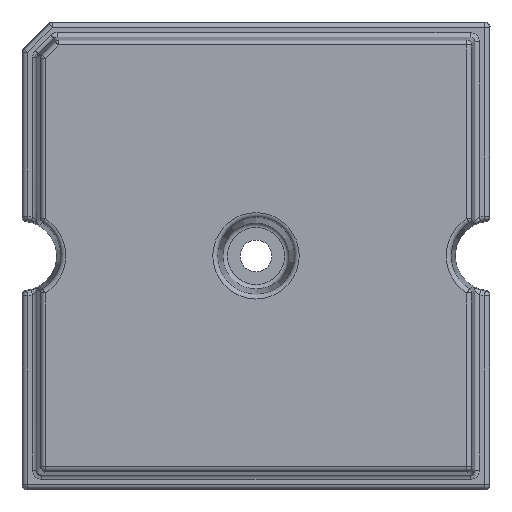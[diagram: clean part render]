
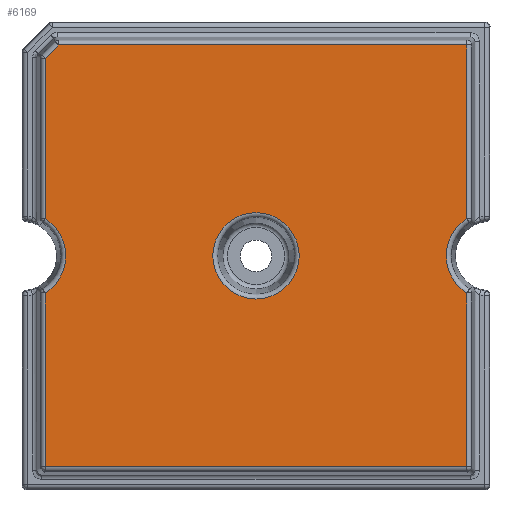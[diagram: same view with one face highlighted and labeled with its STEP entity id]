
A CAD part, top view. The second image highlights one B-rep face of the part: STEP entity #6169.
In plain terms, the highlighted planar face has unit normal (0, 0, 1).
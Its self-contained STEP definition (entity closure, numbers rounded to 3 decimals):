
#277=CIRCLE('',#6587,4.672);
#316=CIRCLE('',#6668,4.672);
#347=CIRCLE('',#6732,4.614);
#490=PLANE('',#6748);
#832=LINE('',#10495,#1218);
#833=LINE('',#10501,#1219);
#834=LINE('',#10507,#1220);
#837=LINE('',#10619,#1223);
#849=LINE('',#10717,#1235);
#877=LINE('',#11078,#1263);
#878=LINE('',#11080,#1264);
#1218=VECTOR('',#7686,1000.);
#1219=VECTOR('',#7695,1000.);
#1220=VECTOR('',#7704,1000.);
#1223=VECTOR('',#7763,1000.);
#1235=VECTOR('',#7809,1000.);
#1263=VECTOR('',#8055,1000.);
#1264=VECTOR('',#8058,1000.);
#2643=ORIENTED_EDGE('',*,*,#3868,.T.);
#2644=ORIENTED_EDGE('',*,*,#3741,.F.);
#2645=ORIENTED_EDGE('',*,*,#3867,.T.);
#2646=ORIENTED_EDGE('',*,*,#3718,.F.);
#2647=ORIENTED_EDGE('',*,*,#3712,.T.);
#2648=ORIENTED_EDGE('',*,*,#3709,.T.);
#2649=ORIENTED_EDGE('',*,*,#3706,.F.);
#2650=ORIENTED_EDGE('',*,*,#3819,.F.);
#2651=ORIENTED_EDGE('',*,*,#3766,.T.);
#2652=ORIENTED_EDGE('',*,*,#3866,.F.);
#3706=EDGE_CURVE('',#4462,#4461,#832,.T.);
#3709=EDGE_CURVE('',#4463,#4461,#833,.T.);
#3712=EDGE_CURVE('',#4464,#4463,#834,.T.);
#3718=EDGE_CURVE('',#4464,#4467,#277,.T.);
#3741=EDGE_CURVE('',#4479,#4476,#837,.T.);
#3766=EDGE_CURVE('',#4494,#4493,#849,.T.);
#3819=EDGE_CURVE('',#4494,#4462,#316,.T.);
#3866=EDGE_CURVE('',#4543,#4543,#347,.T.);
#3867=EDGE_CURVE('',#4479,#4467,#877,.T.);
#3868=EDGE_CURVE('',#4493,#4476,#878,.T.);
#4461=VERTEX_POINT('',#10492);
#4462=VERTEX_POINT('',#10494);
#4463=VERTEX_POINT('',#10500);
#4464=VERTEX_POINT('',#10506);
#4467=VERTEX_POINT('',#10518);
#4476=VERTEX_POINT('',#10607);
#4479=VERTEX_POINT('',#10614);
#4493=VERTEX_POINT('',#10714);
#4494=VERTEX_POINT('',#10718);
#4543=VERTEX_POINT('',#11076);
#5226=EDGE_LOOP('',(#2643,#2644,#2645,#2646,#2647,#2648,#2649,#2650,#2651));
#5227=EDGE_LOOP('',(#2652));
#5677=FACE_BOUND('',#5226,.T.);
#5678=FACE_BOUND('',#5227,.T.);
#6169=ADVANCED_FACE('',(#5677,#5678),#490,.T.);
#6587=AXIS2_PLACEMENT_3D('',#10522,#7719,#7720);
#6668=AXIS2_PLACEMENT_3D('',#10902,#7917,#7918);
#6732=AXIS2_PLACEMENT_3D('',#11075,#8051,#8052);
#6748=AXIS2_PLACEMENT_3D('',#11094,#8085,#8086);
#7686=DIRECTION('',(0.,-1.,0.));
#7695=DIRECTION('',(1.,0.,0.));
#7704=DIRECTION('',(0.,-1.,0.));
#7719=DIRECTION('',(0.,0.,1.));
#7720=DIRECTION('',(0.529,-0.849,0.));
#7763=DIRECTION('',(0.707,0.707,0.));
#7809=DIRECTION('',(0.,1.,0.));
#7917=DIRECTION('',(0.,0.,1.));
#7918=DIRECTION('',(-0.529,0.849,0.));
#8051=DIRECTION('',(0.,0.,1.));
#8052=DIRECTION('',(0.,-1.,0.));
#8055=DIRECTION('',(0.,-1.,0.));
#8058=DIRECTION('',(-1.,0.,0.));
#8085=DIRECTION('',(0.,0.,1.));
#8086=DIRECTION('',(0.,1.,0.));
#10492=CARTESIAN_POINT('',(22.528,-22.528,9.5));
#10494=CARTESIAN_POINT('',(22.528,-3.965,9.5));
#10495=CARTESIAN_POINT('',(22.528,-3.965,9.5));
#10500=CARTESIAN_POINT('',(-22.528,-22.528,9.5));
#10501=CARTESIAN_POINT('',(-22.528,-22.528,9.5));
#10506=CARTESIAN_POINT('',(-22.528,-3.965,9.5));
#10507=CARTESIAN_POINT('',(-22.528,-3.965,9.5));
#10518=CARTESIAN_POINT('',(-22.528,3.965,9.5));
#10522=CARTESIAN_POINT('',(-25.,0.,9.5));
#10607=CARTESIAN_POINT('',(-21.097,22.528,9.5));
#10614=CARTESIAN_POINT('',(-22.528,21.097,9.5));
#10619=CARTESIAN_POINT('',(-22.528,21.097,9.5));
#10714=CARTESIAN_POINT('',(22.528,22.528,9.5));
#10717=CARTESIAN_POINT('',(22.528,15.03,9.5));
#10718=CARTESIAN_POINT('',(22.528,3.965,9.5));
#10902=CARTESIAN_POINT('',(25.,0.,9.5));
#11075=CARTESIAN_POINT('',(0.,0.,9.5));
#11076=CARTESIAN_POINT('',(0.,-4.614,9.5));
#11078=CARTESIAN_POINT('',(-22.528,21.097,9.5));
#11080=CARTESIAN_POINT('',(22.528,22.528,9.5));
#11094=CARTESIAN_POINT('',(0.,0.,9.5));
